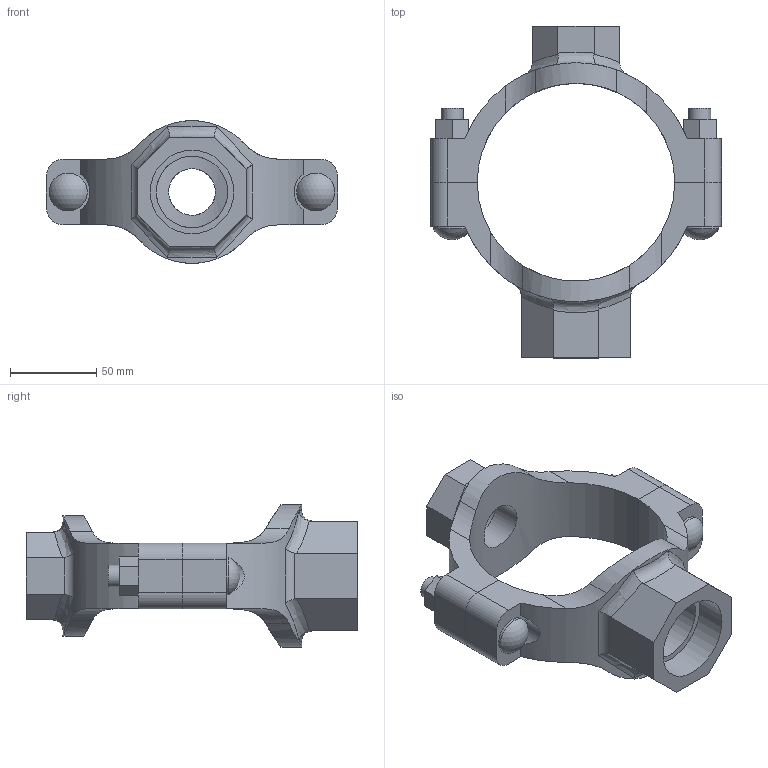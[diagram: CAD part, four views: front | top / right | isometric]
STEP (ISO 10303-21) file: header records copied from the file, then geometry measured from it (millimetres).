
FILE_DESCRIPTION(/* description */ ('VIC MECH-T BRANCH OUTLET CROSS STYLE 920N (THD)','CAx-IF Rec.Pracs.---Representation and Presentation of Product Manufacturing Information (PMI)---4.0---2014-10-13'),/* implementation_level */ '2;1');
FILE_NAME(/* name */ 'C:\Users\Vjadhav\AppData\Roaming\Autodesk\ApplicationPlugins\Back Up\Victaulic_IPS_Mechanical-Cross Outlet_Style 920N (FPT)\Victaulic_IPS_Mechanical-Cross Outlet_04.0x01.0x01.5 (100x25x40).stp',/* time_stamp */ '2020-08-06T18:58:23+05:00',/* author */ ('Vjadhav'),/* organization */ ('Victaulic'),/* preprocessor_version */ 'ST-DEVELOPER v17.2',/* originating_system */ 'Autodesk Inventor 2019',/* authorisation */ '');
FILE_SCHEMA (('AP242_MANAGED_MODEL_BASED_3D_ENGINEERING_MIM_LF { 1 0 10303 442 1 1 4 }'));
Length unit declared in the file: inch
Products named in the file (3): 920NT-04.0x01.0x01.5; 920NT-04.0x01.0; 920NT-04.0x01.5
Assembly tree (2 placements, depth 2):
  920NT-04.0x01.0x01.5
    920NT-04.0x01.0
    920NT-04.0x01.5
Bounding box: 168.4 x 192.02 x 82.42 mm (x, y, z)
Volume: 359450.6 mm3; surface area: 86695.4 mm2
Topology: 2 solids, 2 shells, 132 faces, 350 edges, 236 vertices
Faces by surface type: plane 68, cylinder 50, bspline 8, torus 4, sphere 2
Full cylindrical faces by diameter (mm): 12.7 x4, 21.982 x2, 26.987 x1, 33.401 x1, 41.275 x1, 48.26 x1
Entity records: 5268 total; most frequent: CARTESIAN_POINT 1755, ORIENTED_EDGE 700, DIRECTION 648, EDGE_CURVE 350, VERTEX_POINT 236, AXIS2_PLACEMENT_3D 231, LINE 186, VECTOR 186
